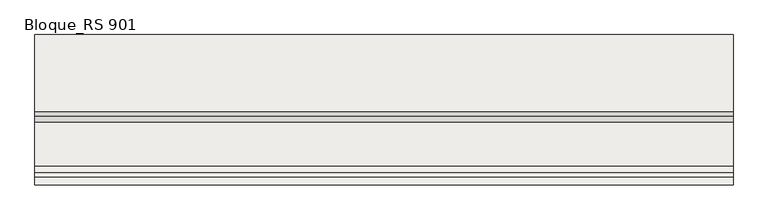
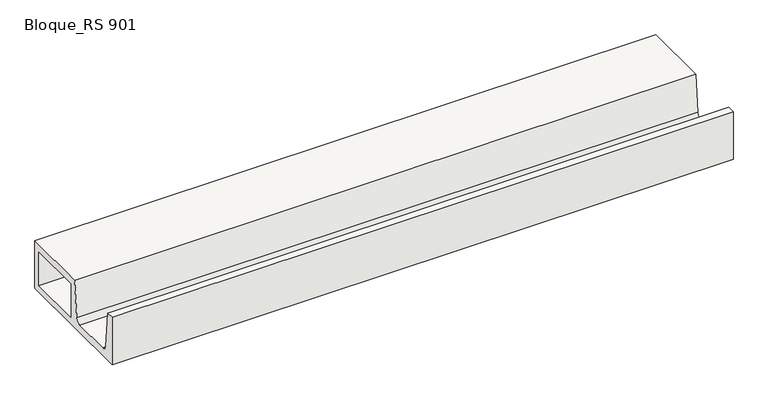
"""IFC4 building model written with IfcOpenShell, lengths in millimetres: slab geometry, ROSA GRES_RS 901 : Bloque_RS 901."""

from ifc_helpers import new_model, si_unit, point, frame, frame_2d, origin, place, context, project, spatial, polyline, circle_curve, trimmed, segment, composite_curve, outline, extrude, source, transform, mapped, element, save


def bloque_rs_901_7b2d1af0(model_context):
    return source(origin(), model_context, "Body", "SweptSolid", [
        extrude(outline(composite_curve([segment(polyline([(-12.836227, 188.7539108), (-12.836227, 1.7539108), (-508.836227, 1.7539108), (-508.836227, 188.7539108), (-481.967602, 188.7539108), (-468.4315983, 49.1487962)]), True, "CONTINUOUS"), segment(trimmed(circle_curve(frame_2d((-448.7892677, 51.599206)), 19.7945866), [point((-468.4315983, 49.1487962))], [point((-448.3978535, 31.8084896))], True, "CARTESIAN"), True, "CONTINUOUS"), segment(polyline([(-448.3978535, 31.8084896), (-302.2746005, 31.8084896)]), True, "CONTINUOUS"), segment(trimmed(circle_curve(frame_2d((-301.8831862, 51.599206)), 19.7945866), [point((-302.2746005, 31.8084896))], [point((-282.2408556, 49.1487962))], True, "CARTESIAN"), True, "CONTINUOUS"), segment(polyline([(-282.2408556, 49.1487962), (-268.704852, 188.7539108), (-12.836227, 188.7539108)]), True, "CONTINUOUS")], self_intersect=False), holes=[polyline([(-241.836227, 158.7539108), (-241.836227, 26.7539108), (-37.836227, 26.7539108), (-37.836227, 158.7539108), (-241.836227, 158.7539108)])]), frame((0.0, 0.0, 0.0), z_axis=(1.0, 0.0, 0.0), x_axis=(0.0, 1.0, 0.0)), (0.0, 0.0, 1.0), 2305.0),
    ])


if __name__ == "__main__":
    model = new_model("IFC4")
    model_context = context("Model", 3, world=origin())
    ifc_project = project(units=[si_unit("LENGTHUNIT", "METRE", prefix="MILLI")], contexts=[model_context])
    site = spatial("IfcSite", under=ifc_project)
    building = spatial("IfcBuilding", under=site)
    placement = place(None, origin())
    bloque_rs_901_shape = bloque_rs_901_7b2d1af0(model_context)
    element("IfcSlab", 1, ObjectType="ROSA GRES_RS 901 : Bloque_RS 901", at=placement, inside=building, context=model_context, shape_type="MappedRepresentation", body=[
        mapped(bloque_rs_901_shape, transform((0.0, 0.0, 0.0), x_axis=(1.0, 0.0, 0.0), y_axis=(0.0, 1.0, 0.0), z_axis=(0.0, 0.0, 1.0))),
    ])
    save(model, "model.ifc")
